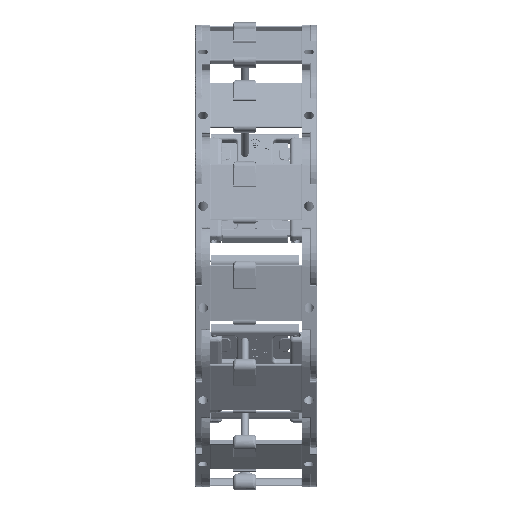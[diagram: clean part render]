
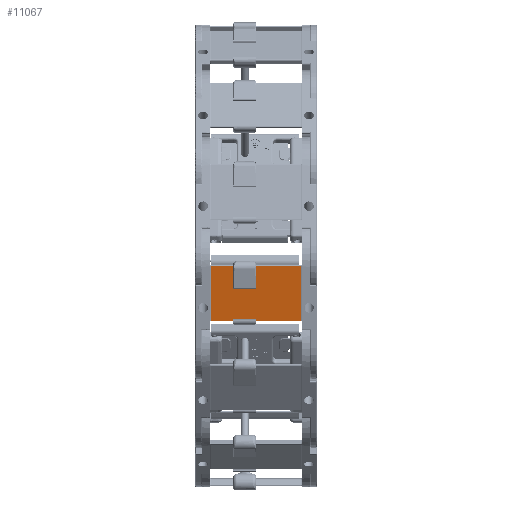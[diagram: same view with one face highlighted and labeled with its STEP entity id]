
A CAD part, front view. The second image highlights one B-rep face of the part: STEP entity #11067.
In plain terms, the highlighted planar face has unit normal (0, -0.978, -0.208) as drawn and (0.132, 0, 0.991) by its records, which use the part's own axes.
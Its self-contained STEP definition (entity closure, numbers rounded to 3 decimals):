
#10854=CARTESIAN_POINT('',(73.666,4.466,131.288));
#10855=VERTEX_POINT('',#10854);
#10925=CARTESIAN_POINT('',(44.922,4.466,135.129));
#10926=VERTEX_POINT('',#10925);
#10927=CARTESIAN_POINT('',(73.666,4.466,131.288));
#10928=DIRECTION('',(-0.991,0.,0.132));
#10929=VECTOR('',#10928,29.);
#10930=LINE('',#10927,#10929);
#10931=EDGE_CURVE('',#10855,#10926,#10930,.T.);
#11037=CARTESIAN_POINT('',(74.685,3.966,131.152));
#11038=DIRECTION('',(0.132,0.,0.991));
#11039=DIRECTION('',(0.0,1.0,0.0));
#11040=AXIS2_PLACEMENT_3D('',#11037,#11038,#11039);
#11041=PLANE('',#11040);
#11042=ORIENTED_EDGE('',*,*,#10931,.F.);
#11043=CARTESIAN_POINT('',(73.666,51.466,131.288));
#11044=VERTEX_POINT('',#11043);
#11045=CARTESIAN_POINT('',(73.666,51.466,131.288));
#11046=DIRECTION('',(0.0,-1.0,0.0));
#11047=VECTOR('',#11046,47.);
#11048=LINE('',#11045,#11047);
#11049=EDGE_CURVE('',#11044,#10855,#11048,.T.);
#11050=ORIENTED_EDGE('',*,*,#11049,.F.);
#11051=CARTESIAN_POINT('',(44.922,51.466,135.129));
#11052=VERTEX_POINT('',#11051);
#11053=CARTESIAN_POINT('',(44.922,51.466,135.129));
#11054=DIRECTION('',(0.991,0.,-0.132));
#11055=VECTOR('',#11054,29.);
#11056=LINE('',#11053,#11055);
#11057=EDGE_CURVE('',#11052,#11044,#11056,.T.);
#11058=ORIENTED_EDGE('',*,*,#11057,.F.);
#11059=CARTESIAN_POINT('',(44.922,4.466,135.129));
#11060=DIRECTION('',(0.0,1.0,0.0));
#11061=VECTOR('',#11060,47.);
#11062=LINE('',#11059,#11061);
#11063=EDGE_CURVE('',#10926,#11052,#11062,.T.);
#11064=ORIENTED_EDGE('',*,*,#11063,.F.);
#11065=EDGE_LOOP('',(#11042,#11050,#11058,#11064));
#11066=FACE_OUTER_BOUND('',#11065,.T.);
#11067=ADVANCED_FACE('',(#11066),#11041,.T.);
